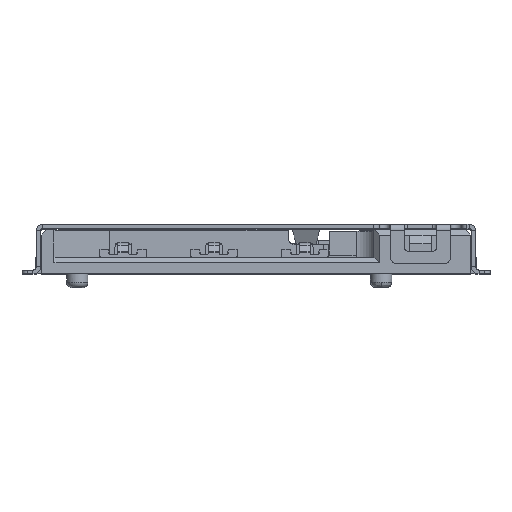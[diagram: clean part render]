
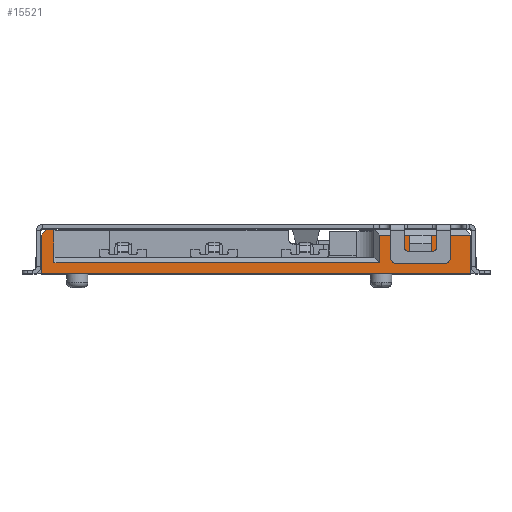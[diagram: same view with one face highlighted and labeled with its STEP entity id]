
A CAD part, top view. The second image highlights one B-rep face of the part: STEP entity #15521.
In plain terms, the highlighted planar face has unit normal (0, 0, 1).
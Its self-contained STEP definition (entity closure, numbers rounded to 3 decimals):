
#14080=CARTESIAN_POINT('Vertex',(6.,0.,6.75)) ;
#14083=CARTESIAN_POINT('Line Origine',(0.,0.,6.75)) ;
#14087=CARTESIAN_POINT('Vertex',(-6.,0.,6.75)) ;
#15243=CARTESIAN_POINT('Vertex',(6.,1.07,6.75)) ;
#15246=CARTESIAN_POINT('Line Origine',(6.,0.535,6.75)) ;
#15426=CARTESIAN_POINT('Axis2P3D Location',(-6.,0.,6.75)) ;
#15431=CARTESIAN_POINT('Line Origine',(-1.1,0.3,6.75)) ;
#15435=CARTESIAN_POINT('Vertex',(3.45,0.3,6.75)) ;
#15437=CARTESIAN_POINT('Vertex',(-5.65,0.3,6.75)) ;
#15440=CARTESIAN_POINT('Line Origine',(-5.65,0.76,6.75)) ;
#15444=CARTESIAN_POINT('Vertex',(-5.65,1.22,6.75)) ;
#15447=CARTESIAN_POINT('Line Origine',(-5.75,1.22,6.75)) ;
#15451=CARTESIAN_POINT('Vertex',(-5.85,1.22,6.75)) ;
#15454=CARTESIAN_POINT('Line Origine',(-5.925,1.145,6.75)) ;
#15458=CARTESIAN_POINT('Vertex',(-6.,1.07,6.75)) ;
#15461=CARTESIAN_POINT('Line Origine',(-6.,0.535,6.75)) ;
#15466=CARTESIAN_POINT('Line Origine',(5.45,1.07,6.75)) ;
#15470=CARTESIAN_POINT('Vertex',(4.9,1.07,6.75)) ;
#15473=CARTESIAN_POINT('Line Origine',(4.9,0.845,6.75)) ;
#15477=CARTESIAN_POINT('Vertex',(4.9,0.62,6.75)) ;
#15480=CARTESIAN_POINT('Line Origine',(4.6,0.62,6.75)) ;
#15484=CARTESIAN_POINT('Vertex',(4.3,0.62,6.75)) ;
#15487=CARTESIAN_POINT('Line Origine',(4.3,0.845,6.75)) ;
#15491=CARTESIAN_POINT('Vertex',(4.3,1.07,6.75)) ;
#15494=CARTESIAN_POINT('Line Origine',(3.875,1.07,6.75)) ;
#15498=CARTESIAN_POINT('Vertex',(3.45,1.07,6.75)) ;
#15501=CARTESIAN_POINT('Line Origine',(3.45,0.685,6.75)) ;
#14084=DIRECTION('Vector Direction',(1.,0.,0.)) ;
#15247=DIRECTION('Vector Direction',(0.,1.,0.)) ;
#15427=DIRECTION('Axis2P3D Direction',(0.,0.,1.)) ;
#15428=DIRECTION('Axis2P3D XDirection',(1.,0.,0.)) ;
#15432=DIRECTION('Vector Direction',(-1.,0.,0.)) ;
#15441=DIRECTION('Vector Direction',(0.,1.,0.)) ;
#15448=DIRECTION('Vector Direction',(1.,0.,0.)) ;
#15455=DIRECTION('Vector Direction',(-0.707,-0.707,0.)) ;
#15462=DIRECTION('Vector Direction',(0.,1.,0.)) ;
#15467=DIRECTION('Vector Direction',(1.,0.,0.)) ;
#15474=DIRECTION('Vector Direction',(0.,1.,0.)) ;
#15481=DIRECTION('Vector Direction',(1.,0.,0.)) ;
#15488=DIRECTION('Vector Direction',(0.,1.,0.)) ;
#15495=DIRECTION('Vector Direction',(1.,0.,0.)) ;
#15502=DIRECTION('Vector Direction',(0.,-1.,0.)) ;
#15429=AXIS2_PLACEMENT_3D('Plane Axis2P3D',#15426,#15427,#15428) ;
#15507=ORIENTED_EDGE('',*,*,#15439,.T.) ;
#15508=ORIENTED_EDGE('',*,*,#15446,.T.) ;
#15509=ORIENTED_EDGE('',*,*,#15453,.F.) ;
#15510=ORIENTED_EDGE('',*,*,#15460,.T.) ;
#15511=ORIENTED_EDGE('',*,*,#15465,.F.) ;
#15512=ORIENTED_EDGE('',*,*,#14089,.T.) ;
#15513=ORIENTED_EDGE('',*,*,#15250,.T.) ;
#15514=ORIENTED_EDGE('',*,*,#15472,.F.) ;
#15515=ORIENTED_EDGE('',*,*,#15479,.F.) ;
#15516=ORIENTED_EDGE('',*,*,#15486,.F.) ;
#15517=ORIENTED_EDGE('',*,*,#15493,.T.) ;
#15518=ORIENTED_EDGE('',*,*,#15500,.F.) ;
#15519=ORIENTED_EDGE('',*,*,#15505,.T.) ;
#14085=VECTOR('Line Direction',#14084,1.) ;
#15248=VECTOR('Line Direction',#15247,1.) ;
#15433=VECTOR('Line Direction',#15432,1.) ;
#15442=VECTOR('Line Direction',#15441,1.) ;
#15449=VECTOR('Line Direction',#15448,1.) ;
#15456=VECTOR('Line Direction',#15455,1.) ;
#15463=VECTOR('Line Direction',#15462,1.) ;
#15468=VECTOR('Line Direction',#15467,1.) ;
#15475=VECTOR('Line Direction',#15474,1.) ;
#15482=VECTOR('Line Direction',#15481,1.) ;
#15489=VECTOR('Line Direction',#15488,1.) ;
#15496=VECTOR('Line Direction',#15495,1.) ;
#15503=VECTOR('Line Direction',#15502,1.) ;
#15521=ADVANCED_FACE('',(#15520),#15430,.T.) ;
#14089=EDGE_CURVE('',#14088,#14081,#14086,.T.) ;
#15250=EDGE_CURVE('',#14081,#15244,#15249,.T.) ;
#15439=EDGE_CURVE('',#15436,#15438,#15434,.T.) ;
#15446=EDGE_CURVE('',#15438,#15445,#15443,.T.) ;
#15453=EDGE_CURVE('',#15452,#15445,#15450,.T.) ;
#15460=EDGE_CURVE('',#15452,#15459,#15457,.T.) ;
#15465=EDGE_CURVE('',#14088,#15459,#15464,.T.) ;
#15472=EDGE_CURVE('',#15471,#15244,#15469,.T.) ;
#15479=EDGE_CURVE('',#15478,#15471,#15476,.T.) ;
#15486=EDGE_CURVE('',#15485,#15478,#15483,.T.) ;
#15493=EDGE_CURVE('',#15485,#15492,#15490,.T.) ;
#15500=EDGE_CURVE('',#15499,#15492,#15497,.T.) ;
#15505=EDGE_CURVE('',#15499,#15436,#15504,.T.) ;
#15506=EDGE_LOOP('',(#15507,#15508,#15509,#15510,#15511,#15512,#15513,#15514,#15515,#15516,#15517,#15518,#15519)) ;
#15520=FACE_OUTER_BOUND('',#15506,.T.) ;
#14086=LINE('Line',#14083,#14085) ;
#15249=LINE('Line',#15246,#15248) ;
#15434=LINE('Line',#15431,#15433) ;
#15443=LINE('Line',#15440,#15442) ;
#15450=LINE('Line',#15447,#15449) ;
#15457=LINE('Line',#15454,#15456) ;
#15464=LINE('Line',#15461,#15463) ;
#15469=LINE('Line',#15466,#15468) ;
#15476=LINE('Line',#15473,#15475) ;
#15483=LINE('Line',#15480,#15482) ;
#15490=LINE('Line',#15487,#15489) ;
#15497=LINE('Line',#15494,#15496) ;
#15504=LINE('Line',#15501,#15503) ;
#15430=PLANE('Plane',#15429) ;
#14081=VERTEX_POINT('',#14080) ;
#14088=VERTEX_POINT('',#14087) ;
#15244=VERTEX_POINT('',#15243) ;
#15436=VERTEX_POINT('',#15435) ;
#15438=VERTEX_POINT('',#15437) ;
#15445=VERTEX_POINT('',#15444) ;
#15452=VERTEX_POINT('',#15451) ;
#15459=VERTEX_POINT('',#15458) ;
#15471=VERTEX_POINT('',#15470) ;
#15478=VERTEX_POINT('',#15477) ;
#15485=VERTEX_POINT('',#15484) ;
#15492=VERTEX_POINT('',#15491) ;
#15499=VERTEX_POINT('',#15498) ;
